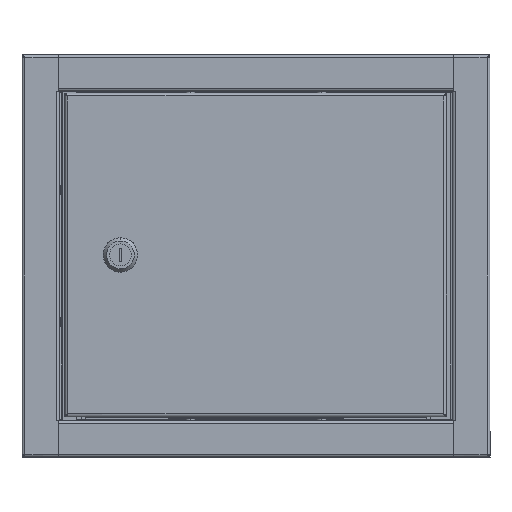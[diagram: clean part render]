
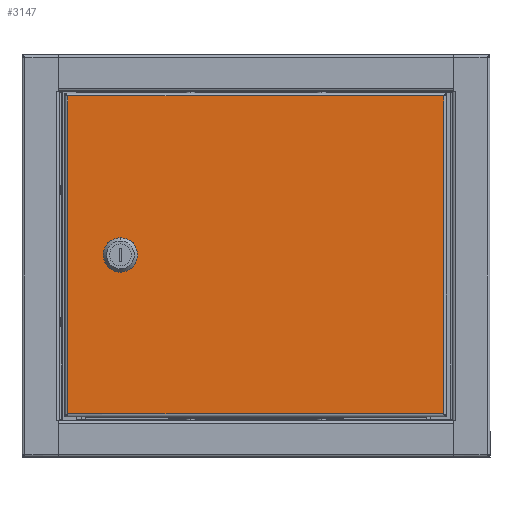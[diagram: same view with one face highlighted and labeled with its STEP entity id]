
A CAD part, top view. The second image highlights one B-rep face of the part: STEP entity #3147.
In plain terms, the highlighted planar face has unit normal (0, 0, 1).
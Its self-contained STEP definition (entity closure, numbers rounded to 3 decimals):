
#29 = FACE_OUTER_BOUND ( 'NONE', #5332, .T. ) ;
#264 = ORIENTED_EDGE ( 'NONE', *, *, #4239, .F. ) ;
#379 = LINE ( 'NONE', #3284, #4946 ) ;
#492 = DIRECTION ( 'NONE',  ( 0., -1., 0. ) ) ;
#759 = ORIENTED_EDGE ( 'NONE', *, *, #6098, .T. ) ;
#1598 = ORIENTED_EDGE ( 'NONE', *, *, #11449, .T. ) ;
#1995 = CARTESIAN_POINT ( 'NONE',  ( -6.9, -4.1, 576.901 ) ) ;
#2199 = CARTESIAN_POINT ( 'NONE',  ( -5.7, -4.1, 576.901 ) ) ;
#2319 = FACE_BOUND ( 'NONE', #13296, .T. ) ;
#2485 = DIRECTION ( 'NONE',  ( 0., 0., 1. ) ) ;
#2546 = LINE ( 'NONE', #2199, #13311 ) ;
#3044 = VERTEX_POINT ( 'NONE', #10064 ) ;
#3147 = ADVANCED_FACE ( 'NONE', ( #29, #2319 ), #11404, .T. ) ;
#3284 = CARTESIAN_POINT ( 'NONE',  ( -6.9, -221.5, 576.901 ) ) ;
#3396 = DIRECTION ( 'NONE',  ( -1., 0., 0. ) ) ;
#3690 = VERTEX_POINT ( 'NONE', #16815 ) ;
#3738 = CARTESIAN_POINT ( 'NONE',  ( -263.9, -221.5, 576.901 ) ) ;
#3978 = DIRECTION ( 'NONE',  ( -1., 0., 0. ) ) ;
#4121 = EDGE_CURVE ( 'NONE', #4436, #7951, #17150, .T. ) ;
#4139 = CARTESIAN_POINT ( 'NONE',  ( -236.9, -121., 576.901 ) ) ;
#4239 = EDGE_CURVE ( 'NONE', #16047, #6564, #16103, .T. ) ;
#4436 = VERTEX_POINT ( 'NONE', #10819 ) ;
#4660 = CARTESIAN_POINT ( 'NONE',  ( -218.9, -121., 576.901 ) ) ;
#4946 = VECTOR ( 'NONE', #5775, 1000. ) ;
#5035 = DIRECTION ( 'NONE',  ( 0., 1., 0. ) ) ;
#5060 = EDGE_CURVE ( 'NONE', #6564, #5882, #9154, .T. ) ;
#5332 = EDGE_LOOP ( 'NONE', ( #1598, #9789, #11826, #759 ) ) ;
#5458 = VECTOR ( 'NONE', #3978, 1000. ) ;
#5775 = DIRECTION ( 'NONE',  ( 0., 1., 0. ) ) ;
#5882 = VERTEX_POINT ( 'NONE', #9174 ) ;
#5954 = DIRECTION ( 'NONE',  ( -1., 0., 0. ) ) ;
#6098 = EDGE_CURVE ( 'NONE', #3044, #13152, #379, .T. ) ;
#6564 = VERTEX_POINT ( 'NONE', #4660 ) ;
#6640 = ORIENTED_EDGE ( 'NONE', *, *, #7240, .F. ) ;
#6681 = VECTOR ( 'NONE', #10704, 1000. ) ;
#6767 = ORIENTED_EDGE ( 'NONE', *, *, #11555, .F. ) ;
#7240 = EDGE_CURVE ( 'NONE', #5882, #3690, #8979, .T. ) ;
#7299 = VECTOR ( 'NONE', #492, 1000. ) ;
#7312 = CARTESIAN_POINT ( 'NONE',  ( -263.9, -4.1, 576.901 ) ) ;
#7701 = CARTESIAN_POINT ( 'NONE',  ( -5.7, -223.5, 576.901 ) ) ;
#7951 = VERTEX_POINT ( 'NONE', #3738 ) ;
#8159 = AXIS2_PLACEMENT_3D ( 'NONE', #7701, #2485, #5035 ) ;
#8979 = LINE ( 'NONE', #11909, #5458 ) ;
#9154 = LINE ( 'NONE', #12169, #6681 ) ;
#9174 = CARTESIAN_POINT ( 'NONE',  ( -218.9, -104.6, 576.901 ) ) ;
#9188 = DIRECTION ( 'NONE',  ( 1., 0., 0. ) ) ;
#9789 = ORIENTED_EDGE ( 'NONE', *, *, #4121, .T. ) ;
#10064 = CARTESIAN_POINT ( 'NONE',  ( -6.9, -221.5, 576.901 ) ) ;
#10704 = DIRECTION ( 'NONE',  ( 0., 1., 0. ) ) ;
#10819 = CARTESIAN_POINT ( 'NONE',  ( -263.9, -4.1, 576.901 ) ) ;
#11245 = DIRECTION ( 'NONE',  ( 0., -1., 0. ) ) ;
#11268 = CARTESIAN_POINT ( 'NONE',  ( -5.7, -221.5, 576.901 ) ) ;
#11404 = PLANE ( 'NONE',  #8159 ) ;
#11449 = EDGE_CURVE ( 'NONE', #13152, #4436, #2546, .T. ) ;
#11555 = EDGE_CURVE ( 'NONE', #3690, #16047, #13922, .T. ) ;
#11826 = ORIENTED_EDGE ( 'NONE', *, *, #15665, .F. ) ;
#11909 = CARTESIAN_POINT ( 'NONE',  ( -218.9, -104.6, 576.901 ) ) ;
#12169 = CARTESIAN_POINT ( 'NONE',  ( -218.9, -104.6, 576.901 ) ) ;
#12261 = CARTESIAN_POINT ( 'NONE',  ( -236.9, -104.6, 576.901 ) ) ;
#12590 = VECTOR ( 'NONE', #9188, 1000. ) ;
#12920 = ORIENTED_EDGE ( 'NONE', *, *, #5060, .F. ) ;
#13152 = VERTEX_POINT ( 'NONE', #1995 ) ;
#13221 = VECTOR ( 'NONE', #11245, 1000. ) ;
#13296 = EDGE_LOOP ( 'NONE', ( #6640, #12920, #264, #6767 ) ) ;
#13311 = VECTOR ( 'NONE', #5954, 1000. ) ;
#13510 = LINE ( 'NONE', #11268, #15361 ) ;
#13922 = LINE ( 'NONE', #12261, #7299 ) ;
#14261 = CARTESIAN_POINT ( 'NONE',  ( -218.9, -121., 576.901 ) ) ;
#15361 = VECTOR ( 'NONE', #3396, 1000. ) ;
#15665 = EDGE_CURVE ( 'NONE', #3044, #7951, #13510, .T. ) ;
#16047 = VERTEX_POINT ( 'NONE', #4139 ) ;
#16103 = LINE ( 'NONE', #14261, #12590 ) ;
#16815 = CARTESIAN_POINT ( 'NONE',  ( -236.9, -104.6, 576.901 ) ) ;
#17150 = LINE ( 'NONE', #7312, #13221 ) ;
